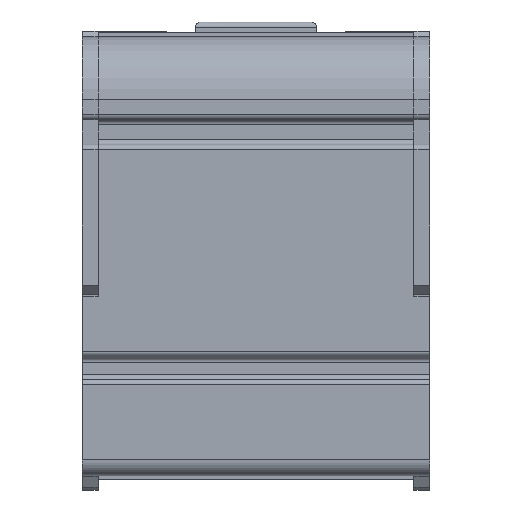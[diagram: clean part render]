
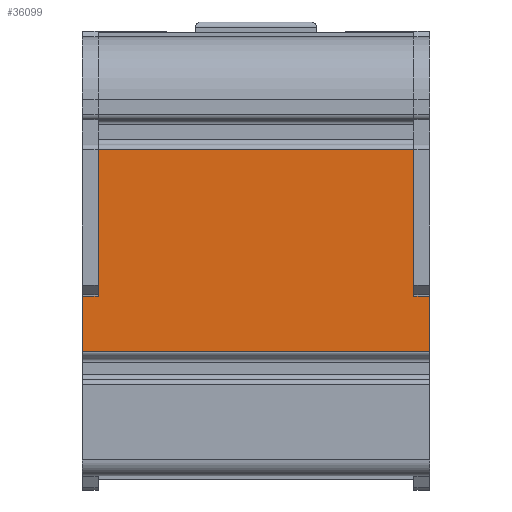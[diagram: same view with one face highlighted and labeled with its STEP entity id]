
A CAD part, top view. The second image highlights one B-rep face of the part: STEP entity #36099.
In plain terms, the highlighted planar face has unit normal (0, 0, 1).
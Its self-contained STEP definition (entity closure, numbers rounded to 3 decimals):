
#6636 = VERTEX_POINT ( 'NONE', #27144 ) ;
#6637 = VERTEX_POINT ( 'NONE', #27145 ) ;
#6679 = VERTEX_POINT ( 'NONE', #27187 ) ;
#6680 = VERTEX_POINT ( 'NONE', #27188 ) ;
#6681 = VERTEX_POINT ( 'NONE', #27189 ) ;
#6682 = VERTEX_POINT ( 'NONE', #27190 ) ;
#6683 = VERTEX_POINT ( 'NONE', #27191 ) ;
#6684 = VERTEX_POINT ( 'NONE', #27192 ) ;
#10229 = EDGE_CURVE ( 'NONE', #6637, #6636, #31313, .T. ) ;
#10259 = EDGE_CURVE ( 'NONE', #6683, #6679, #31369, .T. ) ;
#10260 = EDGE_CURVE ( 'NONE', #6684, #6680, #31371, .T. ) ;
#10261 = EDGE_CURVE ( 'NONE', #6682, #6636, #31373, .T. ) ;
#10287 = EDGE_CURVE ( 'NONE', #6679, #6680, #31407, .T. ) ;
#10289 = EDGE_CURVE ( 'NONE', #6683, #6681, #31414, .T. ) ;
#10290 = EDGE_CURVE ( 'NONE', #6681, #6682, #31419, .T. ) ;
#10292 = EDGE_CURVE ( 'NONE', #6684, #6637, #31425, .T. ) ;
#11373 = ORIENTED_EDGE ( 'NONE', *, *, #10290, .F. ) ;
#11374 = ORIENTED_EDGE ( 'NONE', *, *, #10289, .F. ) ;
#11375 = ORIENTED_EDGE ( 'NONE', *, *, #10259, .T. ) ;
#11376 = ORIENTED_EDGE ( 'NONE', *, *, #10287, .T. ) ;
#11377 = ORIENTED_EDGE ( 'NONE', *, *, #10260, .F. ) ;
#11378 = ORIENTED_EDGE ( 'NONE', *, *, #10292, .T. ) ;
#11379 = ORIENTED_EDGE ( 'NONE', *, *, #10229, .T. ) ;
#11380 = ORIENTED_EDGE ( 'NONE', *, *, #10261, .F. ) ;
#27144 = CARTESIAN_POINT ( 'NONE',  ( 30., -10.65, 42.9 ) ) ;
#27145 = CARTESIAN_POINT ( 'NONE',  ( 30., -38.55, 42.9 ) ) ;
#27187 = CARTESIAN_POINT ( 'NONE',  ( -33., -49.05, 42.9 ) ) ;
#27188 = CARTESIAN_POINT ( 'NONE',  ( 33., -49.05, 42.9 ) ) ;
#27189 = CARTESIAN_POINT ( 'NONE',  ( -30., -38.55, 42.9 ) ) ;
#27190 = CARTESIAN_POINT ( 'NONE',  ( -30., -10.65, 42.9 ) ) ;
#27191 = CARTESIAN_POINT ( 'NONE',  ( -33., -38.55, 42.9 ) ) ;
#27192 = CARTESIAN_POINT ( 'NONE',  ( 33., -38.55, 42.9 ) ) ;
#30372 = CARTESIAN_POINT ( 'NONE',  ( 30., -10.65, 42.9 ) ) ;
#30378 = DIRECTION ( 'NONE',  ( 0., 1., 0. ) ) ;
#30442 = CARTESIAN_POINT ( 'NONE',  ( -33., -49.05, 42.9 ) ) ;
#30443 = DIRECTION ( 'NONE',  ( 0., -1., 0. ) ) ;
#30444 = CARTESIAN_POINT ( 'NONE',  ( 33., -49.05, 42.9 ) ) ;
#30445 = DIRECTION ( 'NONE',  ( 0., -1., 0. ) ) ;
#30446 = CARTESIAN_POINT ( 'NONE',  ( -118.955, -10.65, 42.9 ) ) ;
#30447 = DIRECTION ( 'NONE',  ( 1., 0., 0. ) ) ;
#30505 = CARTESIAN_POINT ( 'NONE',  ( -30., -10.65, 42.9 ) ) ;
#30508 = CARTESIAN_POINT ( 'NONE',  ( -118.955, -49.05, 42.9 ) ) ;
#30509 = DIRECTION ( 'NONE',  ( 1., 0., 0. ) ) ;
#30512 = CARTESIAN_POINT ( 'NONE',  ( -33., -38.55, 42.9 ) ) ;
#30513 = DIRECTION ( 'NONE',  ( 1., 0., 0. ) ) ;
#30516 = DIRECTION ( 'NONE',  ( 0., 1., 0. ) ) ;
#30519 = CARTESIAN_POINT ( 'NONE',  ( 33., -38.55, 42.9 ) ) ;
#30520 = DIRECTION ( 'NONE',  ( -1., 0., 0. ) ) ;
#31306 = VECTOR ( 'NONE', #30378, 1000. ) ;
#31313 = LINE ( 'NONE', #30372, #31306 ) ;
#31369 = LINE ( 'NONE', #30442, #31370 ) ;
#31370 = VECTOR ( 'NONE', #30443, 1000. ) ;
#31371 = LINE ( 'NONE', #30444, #31372 ) ;
#31372 = VECTOR ( 'NONE', #30445, 1000. ) ;
#31373 = LINE ( 'NONE', #30446, #31374 ) ;
#31374 = VECTOR ( 'NONE', #30447, 1000. ) ;
#31407 = LINE ( 'NONE', #30508, #31408 ) ;
#31408 = VECTOR ( 'NONE', #30509, 1000. ) ;
#31414 = LINE ( 'NONE', #30512, #31416 ) ;
#31416 = VECTOR ( 'NONE', #30513, 1000. ) ;
#31419 = LINE ( 'NONE', #30505, #31421 ) ;
#31421 = VECTOR ( 'NONE', #30516, 1000. ) ;
#31425 = LINE ( 'NONE', #30519, #31426 ) ;
#31426 = VECTOR ( 'NONE', #30520, 1000. ) ;
#34036 = AXIS2_PLACEMENT_3D ( 'NONE', #38972, #38977, #38978 ) ;
#35223 = FACE_OUTER_BOUND ( 'NONE', #41210, .T. ) ;
#36099 = ADVANCED_FACE ( 'NONE', ( #35223 ), #38974, .F. ) ;
#38972 = CARTESIAN_POINT ( 'NONE',  ( -118.955, -10.65, 42.9 ) ) ;
#38974 = PLANE ( 'NONE',  #34036 ) ;
#38977 = DIRECTION ( 'NONE',  ( 0., 0., -1. ) ) ;
#38978 = DIRECTION ( 'NONE',  ( 0., 1., 0. ) ) ;
#41210 = EDGE_LOOP ( 'NONE', ( #11373, #11374, #11375, #11376, #11377, #11378, #11379, #11380 ) ) ;
